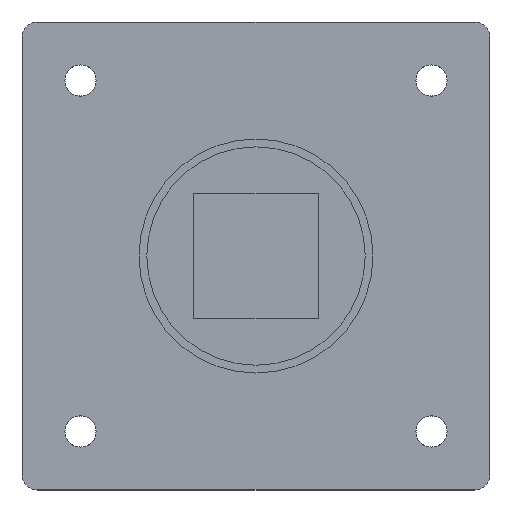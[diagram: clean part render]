
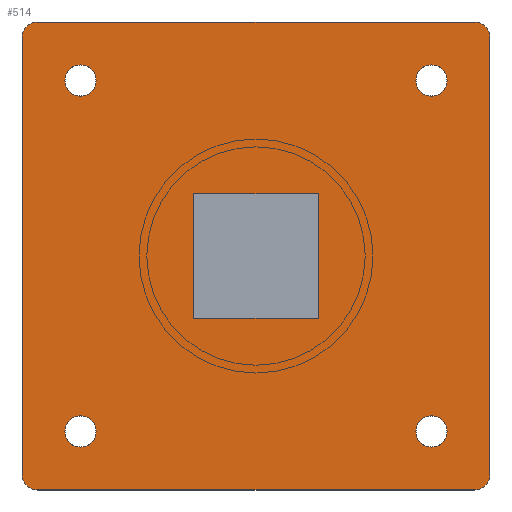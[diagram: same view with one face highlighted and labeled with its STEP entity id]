
A CAD part, top view. The second image highlights one B-rep face of the part: STEP entity #514.
In plain terms, the highlighted planar face has unit normal (0, 0, 1).
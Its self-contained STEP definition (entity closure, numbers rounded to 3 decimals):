
#218 = EDGE_CURVE( '', #238, #376, #587, .T. );
#224 = EDGE_CURVE( '', #276, #290, #593, .T. );
#228 = EDGE_CURVE( '', #254, #238, #597, .T. );
#238 = VERTEX_POINT( '', #610 );
#246 = EDGE_CURVE( '', #280, #254, #619, .T. );
#254 = VERTEX_POINT( '', #627 );
#272 = EDGE_CURVE( '', #310, #280, #648, .T. );
#276 = VERTEX_POINT( '', #652 );
#280 = VERTEX_POINT( '', #656 );
#282 = VERTEX_POINT( '', #658 );
#290 = VERTEX_POINT( '', #668 );
#310 = VERTEX_POINT( '', #689 );
#314 = EDGE_CURVE( '', #324, #310, #693, .T. );
#316 = VERTEX_POINT( '', #695 );
#324 = VERTEX_POINT( '', #706 );
#326 = EDGE_CURVE( '', #362, #388, #708, .T. );
#336 = EDGE_CURVE( '', #346, #324, #720, .T. );
#344 = EDGE_CURVE( '', #374, #346, #728, .T. );
#346 = VERTEX_POINT( '', #730 );
#350 = VERTEX_POINT( '', #735 );
#352 = EDGE_CURVE( '', #282, #350, #737, .T. );
#362 = VERTEX_POINT( '', #748 );
#370 = EDGE_CURVE( '', #376, #374, #756, .T. );
#374 = VERTEX_POINT( '', #761 );
#376 = VERTEX_POINT( '', #763 );
#380 = EDGE_CURVE( '', #388, #362, #767, .T. );
#388 = VERTEX_POINT( '', #777 );
#392 = EDGE_CURVE( '', #402, #316, #781, .T. );
#402 = VERTEX_POINT( '', #793 );
#412 = EDGE_CURVE( '', #350, #282, #804, .T. );
#416 = EDGE_CURVE( '', #290, #276, #808, .T. );
#436 = EDGE_CURVE( '', #468, #536, #829, .T. );
#456 = EDGE_CURVE( '', #498, #468, #849, .T. );
#468 = VERTEX_POINT( '', #864 );
#484 = EDGE_CURVE( '', #534, #498, #883, .T. );
#486 = EDGE_CURVE( '', #316, #402, #885, .T. );
#498 = VERTEX_POINT( '', #898 );
#514 = ADVANCED_FACE( '', ( #921, #922, #923, #924, #925, #926 ), #927, .T. );
#528 = EDGE_CURVE( '', #536, #534, #942, .T. );
#534 = VERTEX_POINT( '', #948 );
#536 = VERTEX_POINT( '', #950 );
#587 = CIRCLE( '', #1003, 2. );
#593 = CIRCLE( '', #1010, 2. );
#597 = LINE( '', #1017, #1018 );
#610 = CARTESIAN_POINT( '', ( -28., -30., 0. ) );
#619 = CIRCLE( '', #1045, 2. );
#627 = CARTESIAN_POINT( '', ( 28., -30., 0. ) );
#648 = LINE( '', #1082, #1083 );
#652 = CARTESIAN_POINT( '', ( -24.5, 22.5, 0. ) );
#656 = CARTESIAN_POINT( '', ( 30., -28., 0. ) );
#658 = CARTESIAN_POINT( '', ( -24.5, -22.5, 0. ) );
#668 = CARTESIAN_POINT( '', ( -20.5, 22.5, 0. ) );
#689 = CARTESIAN_POINT( '', ( 30., 28., 0. ) );
#693 = CIRCLE( '', #1138, 2. );
#695 = CARTESIAN_POINT( '', ( 20.5, 22.5, 0. ) );
#706 = CARTESIAN_POINT( '', ( 28., 30., 0. ) );
#708 = CIRCLE( '', #1154, 2. );
#720 = LINE( '', #1170, #1171 );
#728 = CIRCLE( '', #1185, 2. );
#730 = CARTESIAN_POINT( '', ( -28., 30., 0. ) );
#735 = CARTESIAN_POINT( '', ( -20.5, -22.5, 0. ) );
#737 = CIRCLE( '', #1195, 2. );
#748 = CARTESIAN_POINT( '', ( 20.5, -22.5, 0. ) );
#756 = LINE( '', #1222, #1223 );
#761 = CARTESIAN_POINT( '', ( -30., 28., 0. ) );
#763 = CARTESIAN_POINT( '', ( -30., -28., 0. ) );
#767 = CIRCLE( '', #1237, 2. );
#777 = CARTESIAN_POINT( '', ( 24.5, -22.5, 0. ) );
#781 = CIRCLE( '', #1254, 2. );
#793 = CARTESIAN_POINT( '', ( 24.5, 22.5, 0. ) );
#804 = CIRCLE( '', #1286, 2. );
#808 = CIRCLE( '', #1293, 2. );
#829 = LINE( '', #1323, #1324 );
#849 = LINE( '', #1353, #1354 );
#864 = CARTESIAN_POINT( '', ( 8., 8., 0. ) );
#883 = LINE( '', #1397, #1398 );
#885 = CIRCLE( '', #1401, 2. );
#898 = CARTESIAN_POINT( '', ( -8., 8., 0. ) );
#921 = FACE_BOUND( '', #1444, .T. );
#922 = FACE_OUTER_BOUND( '', #1445, .T. );
#923 = FACE_BOUND( '', #1446, .T. );
#924 = FACE_BOUND( '', #1447, .T. );
#925 = FACE_BOUND( '', #1448, .T. );
#926 = FACE_BOUND( '', #1449, .T. );
#927 = PLANE( '', #1450 );
#942 = LINE( '', #1470, #1471 );
#948 = CARTESIAN_POINT( '', ( -8., -8., 0. ) );
#950 = CARTESIAN_POINT( '', ( 8., -8., 0. ) );
#1003 = AXIS2_PLACEMENT_3D( '', #1521, #1522, #1523 );
#1010 = AXIS2_PLACEMENT_3D( '', #1528, #1529, #1530 );
#1017 = CARTESIAN_POINT( '', ( -28., -30., 0. ) );
#1018 = VECTOR( '', #1532, 1. );
#1045 = AXIS2_PLACEMENT_3D( '', #1567, #1568, #1569 );
#1082 = CARTESIAN_POINT( '', ( 30., -28., 0. ) );
#1083 = VECTOR( '', #1600, 1. );
#1138 = AXIS2_PLACEMENT_3D( '', #1642, #1643, #1644 );
#1154 = AXIS2_PLACEMENT_3D( '', #1661, #1662, #1663 );
#1170 = CARTESIAN_POINT( '', ( 28., 30., 0. ) );
#1171 = VECTOR( '', #1684, 1. );
#1185 = AXIS2_PLACEMENT_3D( '', #1690, #1691, #1692 );
#1195 = AXIS2_PLACEMENT_3D( '', #1701, #1702, #1703 );
#1222 = CARTESIAN_POINT( '', ( -30., 28., 0. ) );
#1223 = VECTOR( '', #1718, 1. );
#1237 = AXIS2_PLACEMENT_3D( '', #1728, #1729, #1730 );
#1254 = AXIS2_PLACEMENT_3D( '', #1748, #1749, #1750 );
#1286 = AXIS2_PLACEMENT_3D( '', #1782, #1783, #1784 );
#1293 = AXIS2_PLACEMENT_3D( '', #1786, #1787, #1788 );
#1323 = CARTESIAN_POINT( '', ( 8., 4., 0. ) );
#1324 = VECTOR( '', #1806, 1. );
#1353 = CARTESIAN_POINT( '', ( -4., 8., 0. ) );
#1354 = VECTOR( '', #1816, 1. );
#1397 = CARTESIAN_POINT( '', ( -8., -4., 0. ) );
#1398 = VECTOR( '', #1860, 1. );
#1401 = AXIS2_PLACEMENT_3D( '', #1861, #1862, #1863 );
#1444 = EDGE_LOOP( '', ( #1912, #1913, #1914, #1915 ) );
#1445 = EDGE_LOOP( '', ( #1916, #1917, #1918, #1919, #1920, #1921, #1922, #1923 ) );
#1446 = EDGE_LOOP( '', ( #1924, #1925 ) );
#1447 = EDGE_LOOP( '', ( #1926, #1927 ) );
#1448 = EDGE_LOOP( '', ( #1928, #1929 ) );
#1449 = EDGE_LOOP( '', ( #1930, #1931 ) );
#1450 = AXIS2_PLACEMENT_3D( '', #1932, #1933, #1934 );
#1470 = CARTESIAN_POINT( '', ( 4., -8., 0. ) );
#1471 = VECTOR( '', #1950, 1. );
#1521 = CARTESIAN_POINT( '', ( -28., -28., 0. ) );
#1522 = DIRECTION( '', ( 0., 0., -1. ) );
#1523 = DIRECTION( '', ( -1., 0., 0. ) );
#1528 = CARTESIAN_POINT( '', ( -22.5, 22.5, 0. ) );
#1529 = DIRECTION( '', ( 0., 0., 1. ) );
#1530 = DIRECTION( '', ( 1., 0., 0. ) );
#1532 = DIRECTION( '', ( -1., 0., 0. ) );
#1567 = CARTESIAN_POINT( '', ( 28., -28., 0. ) );
#1568 = DIRECTION( '', ( 0., 0., -1. ) );
#1569 = DIRECTION( '', ( 0., -1., 0. ) );
#1600 = DIRECTION( '', ( 0., -1., 0. ) );
#1642 = CARTESIAN_POINT( '', ( 28., 28., 0. ) );
#1643 = DIRECTION( '', ( 0., 0., -1. ) );
#1644 = DIRECTION( '', ( 1., 0., 0. ) );
#1661 = CARTESIAN_POINT( '', ( 22.5, -22.5, 0. ) );
#1662 = DIRECTION( '', ( 0., 0., 1. ) );
#1663 = DIRECTION( '', ( 1., 0., 0. ) );
#1684 = DIRECTION( '', ( 1., 0., 0. ) );
#1690 = CARTESIAN_POINT( '', ( -28., 28., 0. ) );
#1691 = DIRECTION( '', ( 0., 0., -1. ) );
#1692 = DIRECTION( '', ( 0., 1., 0. ) );
#1701 = CARTESIAN_POINT( '', ( -22.5, -22.5, 0. ) );
#1702 = DIRECTION( '', ( 0., 0., 1. ) );
#1703 = DIRECTION( '', ( 1., 0., 0. ) );
#1718 = DIRECTION( '', ( 0., 1., 0. ) );
#1728 = CARTESIAN_POINT( '', ( 22.5, -22.5, 0. ) );
#1729 = DIRECTION( '', ( 0., 0., 1. ) );
#1730 = DIRECTION( '', ( 1., 0., 0. ) );
#1748 = CARTESIAN_POINT( '', ( 22.5, 22.5, 0. ) );
#1749 = DIRECTION( '', ( 0., 0., 1. ) );
#1750 = DIRECTION( '', ( 1., 0., 0. ) );
#1782 = CARTESIAN_POINT( '', ( -22.5, -22.5, 0. ) );
#1783 = DIRECTION( '', ( 0., 0., 1. ) );
#1784 = DIRECTION( '', ( 1., 0., 0. ) );
#1786 = CARTESIAN_POINT( '', ( -22.5, 22.5, 0. ) );
#1787 = DIRECTION( '', ( 0., 0., 1. ) );
#1788 = DIRECTION( '', ( 1., 0., 0. ) );
#1806 = DIRECTION( '', ( 0., -1., 0. ) );
#1816 = DIRECTION( '', ( 1., 0., 0. ) );
#1860 = DIRECTION( '', ( 0., 1., 0. ) );
#1861 = CARTESIAN_POINT( '', ( 22.5, 22.5, 0. ) );
#1862 = DIRECTION( '', ( 0., 0., 1. ) );
#1863 = DIRECTION( '', ( 1., 0., 0. ) );
#1912 = ORIENTED_EDGE( '', *, *, #456, .T. );
#1913 = ORIENTED_EDGE( '', *, *, #436, .T. );
#1914 = ORIENTED_EDGE( '', *, *, #528, .T. );
#1915 = ORIENTED_EDGE( '', *, *, #484, .T. );
#1916 = ORIENTED_EDGE( '', *, *, #370, .F. );
#1917 = ORIENTED_EDGE( '', *, *, #218, .F. );
#1918 = ORIENTED_EDGE( '', *, *, #228, .F. );
#1919 = ORIENTED_EDGE( '', *, *, #246, .F. );
#1920 = ORIENTED_EDGE( '', *, *, #272, .F. );
#1921 = ORIENTED_EDGE( '', *, *, #314, .F. );
#1922 = ORIENTED_EDGE( '', *, *, #336, .F. );
#1923 = ORIENTED_EDGE( '', *, *, #344, .F. );
#1924 = ORIENTED_EDGE( '', *, *, #380, .F. );
#1925 = ORIENTED_EDGE( '', *, *, #326, .F. );
#1926 = ORIENTED_EDGE( '', *, *, #392, .F. );
#1927 = ORIENTED_EDGE( '', *, *, #486, .F. );
#1928 = ORIENTED_EDGE( '', *, *, #412, .F. );
#1929 = ORIENTED_EDGE( '', *, *, #352, .F. );
#1930 = ORIENTED_EDGE( '', *, *, #416, .F. );
#1931 = ORIENTED_EDGE( '', *, *, #224, .F. );
#1932 = CARTESIAN_POINT( '', ( 0., 0., 0. ) );
#1933 = DIRECTION( '', ( 0., 0., 1. ) );
#1934 = DIRECTION( '', ( 1., 0., 0. ) );
#1950 = DIRECTION( '', ( -1., 0., 0. ) );
